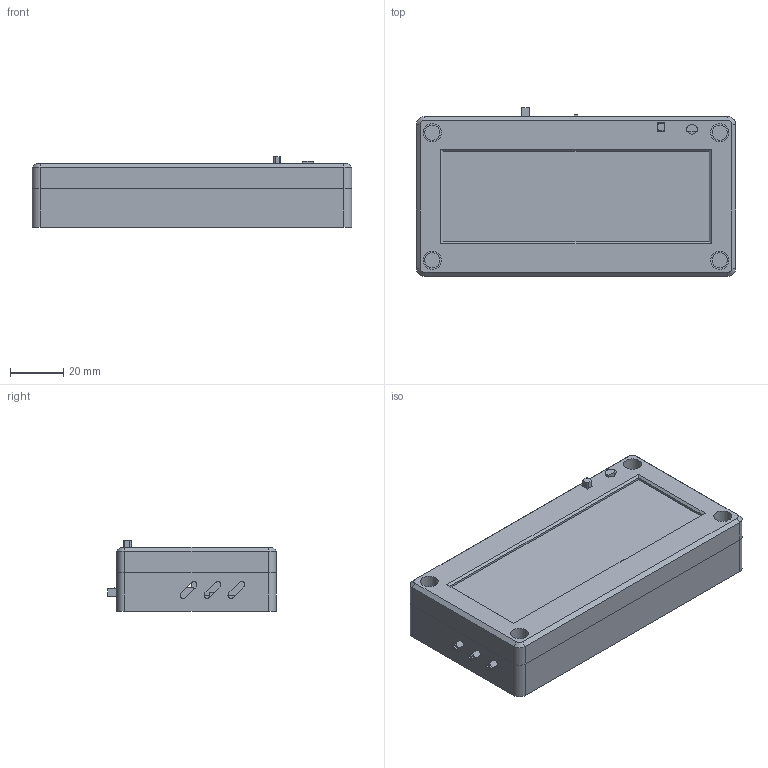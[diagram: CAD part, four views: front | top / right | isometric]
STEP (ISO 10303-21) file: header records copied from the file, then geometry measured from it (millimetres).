
FILE_DESCRIPTION(/* description */ (''),/* implementation_level */ '2;1');
FILE_NAME(/* name */ 'little-on-air-v210-assembly.step',/* time_stamp */ '2026-09-13T15:34:08-07:00',/* author */ (''),/* organization */ (''),/* preprocessor_version */ 'ST-DEVELOPER v20.2',/* originating_system */ 'Autodesk Translation Framework v15.15.0.0',/* authorisation */ '');
FILE_SCHEMA (('AUTOMOTIVE_DESIGN { 1 0 10303 214 3 1 1 }'));
Length unit declared in the file: centimetre
Products named in the file (22): (Unsaved); 01 Front optical bezel; 02 Clear acrylic; 03 Registered graphic backing; 04 Optical retainer; REF Four LEDs; REF Charger; REF SPDT power switch; REF SPDT moving lever; REF DPDT; REF DPDT moving actuator; REF XIAO; 05 Rear electronics housing; 06 Electronics retaining yoke; 07 Front guided reset button; REF Battery; REF Capacitor; REF M3 screws; REF M3 nuts; 08 Front RGB light guide; 09 Upper charger light guide; 10 Lower charger light guide
Assembly tree (21 placements, depth 2):
  (Unsaved)
    01 Front optical bezel
    02 Clear acrylic
    03 Registered graphic backing
    04 Optical retainer
    REF Four LEDs
    REF Charger
    REF SPDT power switch
    REF SPDT moving lever
    REF DPDT
    REF DPDT moving actuator
    REF XIAO
    05 Rear electronics housing
    06 Electronics retaining yoke
    07 Front guided reset button
    REF Battery
    REF Capacitor
    REF M3 screws
    REF M3 nuts
    08 Front RGB light guide
    09 Upper charger light guide
    10 Lower charger light guide
Bounding box: 120 x 63.4 x 26.5 mm (x, y, z)
Volume: 86637.3 mm3; surface area: 80166 mm2
Topology: 60 solids, 60 shells, 1708 faces, 4555 edges, 3030 vertices
Faces by surface type: plane 1617, cylinder 87, cone 4
Full cylindrical faces by diameter (mm): 3 x8, 3.01 x8, 3.2 x3, 3.6 x24, 5.7 x8, 6.8 x4, 8 x1
Entity records: 53028 total; most frequent: CARTESIAN_POINT 9336, ORIENTED_EDGE 9110, DIRECTION 8238, EDGE_CURVE 4555, LINE 4374, VECTOR 4374, VERTEX_POINT 3030, AXIS2_PLACEMENT_3D 1932
